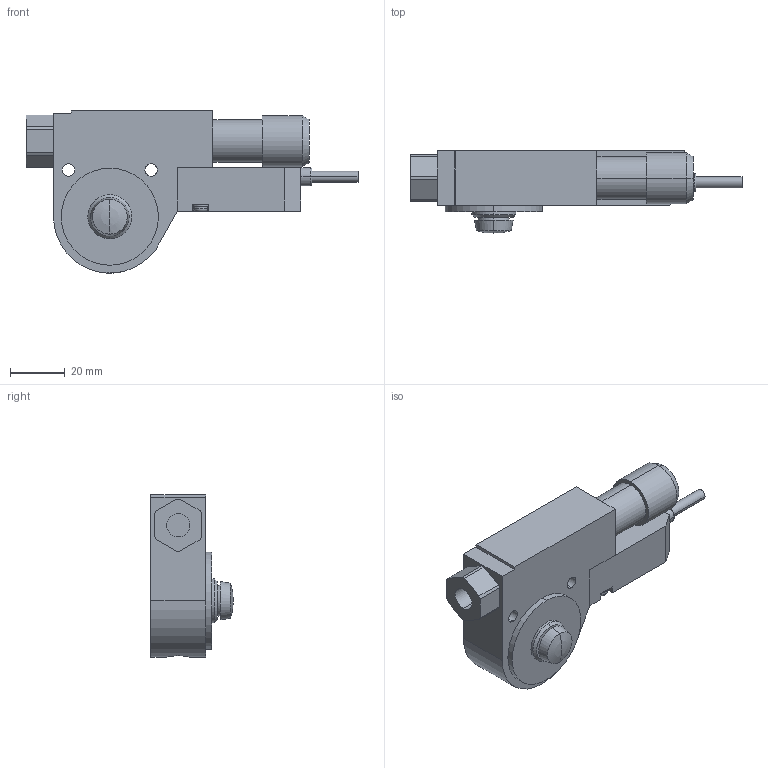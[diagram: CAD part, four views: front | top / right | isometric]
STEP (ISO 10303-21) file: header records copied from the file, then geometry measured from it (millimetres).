
FILE_DESCRIPTION( (''), '2;1');
FILE_NAME ('WS50.14508.CVF-1-###AB_14975.stp','2020-11-09T14:37:27',(''),(''),'spGate 14.4.8','','');
FILE_SCHEMA (('AUTOMOTIVE_DESIGN'));
Length unit declared in the file: millimetre
Products named in the file (7): Assembly; MVS-030ABコンバム搭載用; 本体; _v___O_u___b_N_2; _v___O_u___b_N_3; _v___O_u___b_N_4; _v___O_u___b_N_5
Assembly tree (6 placements, depth 2):
  Assembly
    MVS-030ABコンバム搭載用
    本体
    _v___O_u___b_N_2
    _v___O_u___b_N_3
    _v___O_u___b_N_4
    _v___O_u___b_N_5
Bounding box: 120.76 x 30 x 59 mm (x, y, z)
Volume: 79836.4 mm3; surface area: 18760.2 mm2
Topology: 6 solids, 6 shells, 179 faces, 418 edges, 271 vertices
Faces by surface type: plane 84, cylinder 75, bspline 18, sphere 2
Entity records: 8955 total; most frequent: CARTESIAN_POINT 1289, DIRECTION 852, ORIENTED_EDGE 832, COLOUR_RGB 601, PRESENTATION_STYLE_ASSIGNMENT 601, STYLED_ITEM 601, EDGE_CURVE 416, DRAUGHTING_PRE_DEFINED_CURVE_FONT 416
